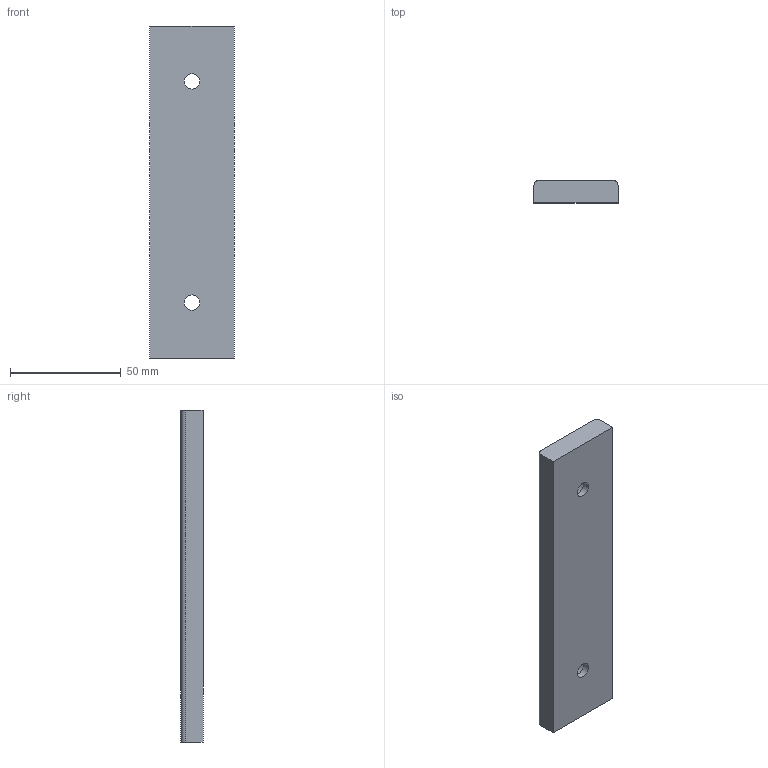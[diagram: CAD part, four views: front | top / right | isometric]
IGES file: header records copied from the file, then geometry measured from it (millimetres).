
Start section: Data from Parasolid IGES Translator 20.0.26, Copyright(c) 2006 Siemens P LM Software. All Rights Reserved.
Global section: file name: G220-01-038-150.igs; native system: By Siemens PLM Incorporated; preprocessor: XPlus GENERIC/IGES 20.0.26; author: Noname; organization: Noname; date: 20190708.082158; units: millimetre
Bounding box: 38 x 10 x 150 mm (x, y, z)
Surface area: 15360.9 mm2 (no closed solid volume)
Topology: 0 solids, 0 shells, 14 faces, 60 edges, 57 vertices
Faces by surface type: extrusion 8, revolution 6
